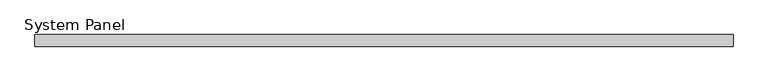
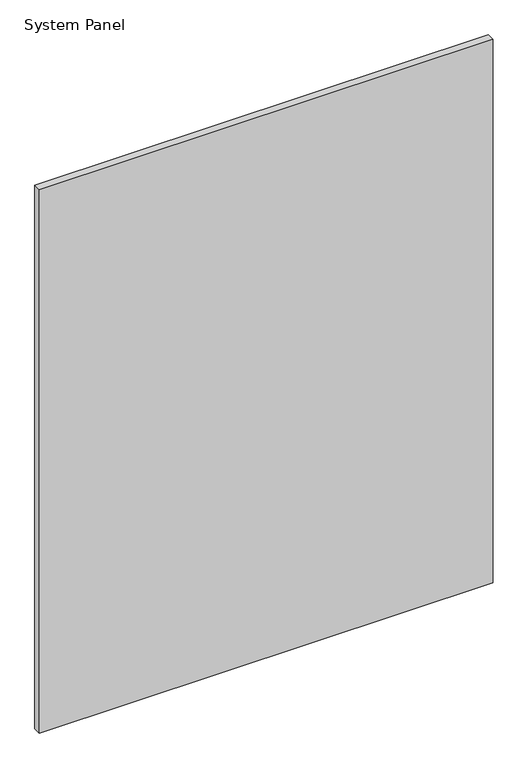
"""IFC4 building model written with IfcOpenShell, lengths in millimetres: plate geometry, System Panel : Panel_Glazed_Generic Showcase_30mm."""

from ifc_helpers import new_model, si_unit, origin, origin_with_axes, place, context, project, spatial, polyline, outline, extrude, source, transform, mapped, element, save


def system_panel_ff6ce59d(model_context):
    return source(origin(), model_context, "Body", "SweptSolid", [
        extrude(outline(polyline([(869.239998, -30.0), (-869.239998, -30.0), (-869.239998, 0.0), (869.239998, 0.0), (869.239998, -30.0)])), origin_with_axes(), (0.0, 0.0, 1.0), 2200.0),
    ])


if __name__ == "__main__":
    model = new_model("IFC4")
    model_context = context("Model", 3, world=origin())
    ifc_project = project(units=[si_unit("LENGTHUNIT", "METRE", prefix="MILLI")], contexts=[model_context])
    site = spatial("IfcSite", under=ifc_project)
    building = spatial("IfcBuilding", under=site)
    placement = place(None, origin())
    system_panel_shape = system_panel_ff6ce59d(model_context)
    element("IfcPlate", 1, ObjectType="System Panel : Panel_Glazed_Generic Showcase_30mm", at=placement, inside=building, context=model_context, shape_type="MappedRepresentation", body=[
        mapped(system_panel_shape, transform((0.0, 0.0, 0.0), x_axis=(1.0, 0.0, 0.0), y_axis=(0.0, 1.0, 0.0), z_axis=(0.0, 0.0, 1.0))),
    ])
    save(model, "model.ifc")
